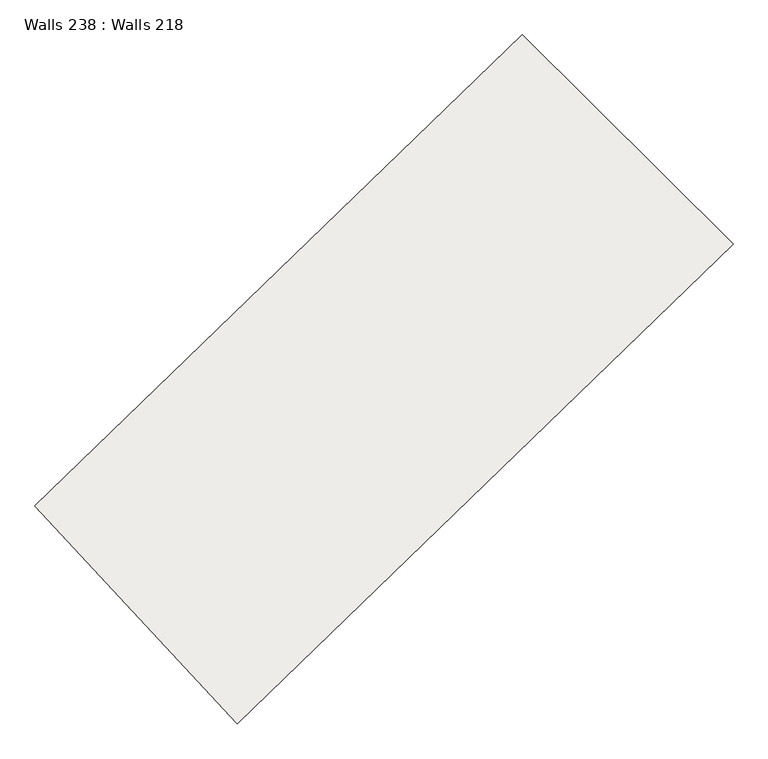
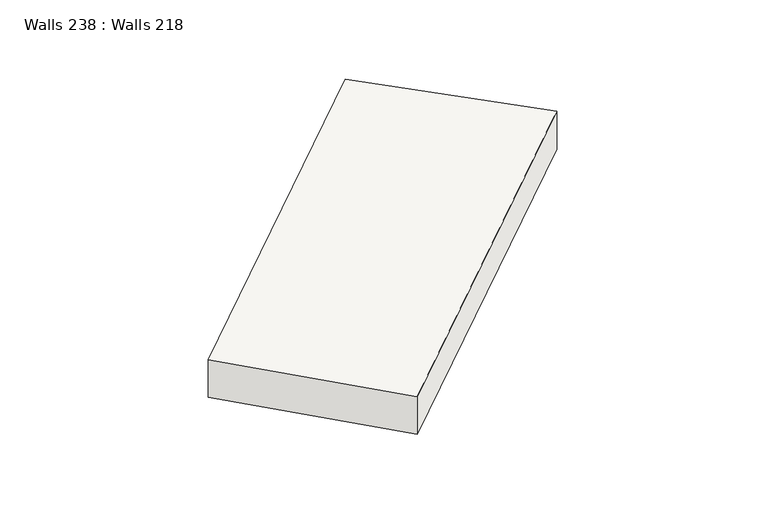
"""IFC4 building model written with IfcOpenShell, lengths in millimetres: slab geometry, Walls 238 : Walls 218."""

from ifc_helpers import new_model, si_unit, frame, origin, place, context, project, spatial, source, transform, mapped, element, save
from ifc_brep_helpers import plane_surface, spline_curve, spline_surface, advanced_brep


def walls_238_walls_218_c98b7835(model_context):
    return source(origin(), model_context, "Body", "AdvancedBrep", [
        advanced_brep(
        [(370233.5239047, 240617.591722, 644465.0), (372820.2026553, 237833.9322729, 644465.0), (372820.2026553, 237833.9322729, 645265.0), (370233.5239047, 240617.591722, 645265.0), (376461.7417409, 246644.7135533, 644577.0), (376461.7417409, 246644.7135533, 645377.0), (379159.0620187, 243968.0620408, 645377.0), (379159.0620187, 243968.0620408, 644577.0)],
        [
            (0, 1),
            (1, 2),
            (2, 3),
            (3, 0),
            (4, 5),
            (5, 6),
            (6, 7),
            (7, 4),
            (5, 3, spline_curve(3, [(376461.7417409, 246644.7135533, 645377.0), (374426.645210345, 244593.897896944, 645339.666667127), (372350.004784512, 242584.307804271, 645302.333332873), (370233.5239047, 240617.591722, 645265.0)], [4, 4], [0.0, 28.691590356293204])),
            (2, 6, spline_curve(3, [(372820.2026553, 237833.9322729, 645265.0), (374974.281249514, 239835.565590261, 645302.333332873), (377087.812276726, 241880.834745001, 645339.666667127), (379159.0620187, 243968.0620408, 645377.0)], [4, 4], [0.0, 28.691590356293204])),
            (4, 0, spline_curve(3, [(376461.7417409, 246644.7135533, 644577.0), (374426.64521009, 244593.897896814, 644539.666666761), (372350.004784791, 242584.30780441, 644502.333333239), (370233.5239047, 240617.591722, 644465.0)], [4, 4], [0.0, 28.43909818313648])),
            (7, 1, spline_curve(3, [(379159.0620187, 243968.0620408, 644577.0), (377087.812276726, 241880.834745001, 644539.666667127), (374974.281249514, 239835.565590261, 644502.333332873), (372820.2026553, 237833.9322729, 644465.0)], [4, 4], [0.0, 28.691590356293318])),
        ],
        [
            plane_surface(frame((371526.86328, 239225.7619975, 644865.0), z_axis=(-0.7325504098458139, -0.6807127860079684, 0.0), x_axis=(-0.6807127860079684, 0.7325504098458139, 0.0))),
            plane_surface(frame((377810.4018798, 245306.3877971, 644977.0), z_axis=(0.704381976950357, 0.7098211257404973, 0.0), x_axis=(0.7098211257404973, -0.704381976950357, 0.0))),
            spline_surface(3, 3, [[(379159.0620187, 243968.0620408, 645377.0), (377087.81227701, 241880.834745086, 645339.666666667), (374974.281249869, 239835.565590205, 645302.333333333), (372820.2026553, 237833.9322729, 645265.0)], [(378259.955259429, 244860.279211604, 645377.0), (376200.756588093, 242785.189129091, 645339.666666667), (374099.522428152, 240751.812994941, 645302.333333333), (371957.976405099, 238761.818755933, 645265.0)], [(377360.848500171, 245752.496382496, 645377.0), (375313.700899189, 243689.543513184, 645339.666666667), (373224.763606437, 241668.060399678, 645302.333333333), (371095.750154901, 239689.705238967, 645265.0)], [(376461.7417409, 246644.7135533, 645377.0), (374426.645210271, 244593.897897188, 645339.666666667), (372350.004784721, 242584.307804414, 645302.333333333), (370233.5239047, 240617.591722, 645265.0)]], [4, 4], [4, 4], [0.0, 12.467119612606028], [0.0, 28.691590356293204]),
            spline_surface(3, 3, [[(376461.7417409, 246644.7135533, 645377.0), (374426.645210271, 244593.897897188, 645339.666666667), (372350.004784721, 242584.307804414, 645302.333333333), (370233.5239047, 240617.591722, 645265.0)], [(376461.7417409, 246644.7135533, 645110.333333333), (374426.645210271, 244593.897897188, 645073.0), (372350.004784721, 242584.307804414, 645035.666666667), (370233.5239047, 240617.591722, 644998.333333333)], [(376461.7417409, 246644.7135533, 644843.666666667), (374426.645210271, 244593.897897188, 644806.333333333), (372350.004784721, 242584.307804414, 644769.0), (370233.5239047, 240617.591722, 644731.666666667)], [(376461.7417409, 246644.7135533, 644577.0), (374426.645210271, 244593.897897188, 644539.666666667), (372350.004784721, 242584.307804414, 644502.333333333), (370233.5239047, 240617.591722, 644465.0)]], [4, 4], [4, 4], [0.0, 2.6246719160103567], [0.0, 28.43909818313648]),
            spline_surface(3, 3, [[(376461.7417409, 246644.7135533, 644577.0), (374426.645210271, 244593.897897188, 644539.666666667), (372350.004784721, 242584.307804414, 644502.333333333), (370233.5239047, 240617.591722, 644465.0)], [(377360.848500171, 245752.496382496, 644577.0), (375313.700899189, 243689.543513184, 644539.666666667), (373224.763606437, 241668.060399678, 644502.333333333), (371095.750154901, 239689.705238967, 644465.0)], [(378259.955259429, 244860.279211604, 644577.0), (376200.756588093, 242785.189129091, 644539.666666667), (374099.522428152, 240751.812994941, 644502.333333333), (371957.976405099, 238761.818755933, 644465.0)], [(379159.0620187, 243968.0620408, 644577.0), (377087.81227701, 241880.834745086, 644539.666666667), (374974.281249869, 239835.565590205, 644502.333333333), (372820.2026553, 237833.9322729, 644465.0)]], [4, 4], [4, 4], [0.0, 12.467119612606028], [0.0, 28.691590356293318]),
            spline_surface(3, 3, [[(379159.0620187, 243968.0620408, 644577.0), (377087.81227701, 241880.834745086, 644539.666666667), (374974.281249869, 239835.565590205, 644502.333333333), (372820.2026553, 237833.9322729, 644465.0)], [(379159.0620187, 243968.0620408, 644843.666666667), (377087.81227701, 241880.834745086, 644806.333333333), (374974.281249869, 239835.565590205, 644769.0), (372820.2026553, 237833.9322729, 644731.666666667)], [(379159.0620187, 243968.0620408, 645110.333333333), (377087.81227701, 241880.834745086, 645073.0), (374974.281249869, 239835.565590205, 645035.666666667), (372820.2026553, 237833.9322729, 644998.333333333)], [(379159.0620187, 243968.0620408, 645377.0), (377087.81227701, 241880.834745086, 645339.666666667), (374974.281249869, 239835.565590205, 645302.333333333), (372820.2026553, 237833.9322729, 645265.0)]], [4, 4], [4, 4], [0.0, 2.6246719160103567], [0.0, 28.944082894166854]),
        ],
        [
            (0, [[1, 2, 3, 4]]),
            (1, [[5, 6, 7, 8]]),
            (2, [[-6, 9, -3, 10]]),
            (3, [[-5, 11, -4, -9]]),
            (4, [[-8, 12, -1, -11]]),
            (5, [[-7, -10, -2, -12]]),
        ],
    ),
    ])


if __name__ == "__main__":
    model = new_model("IFC4")
    model_context = context("Model", 3, world=origin())
    ifc_project = project(units=[si_unit("LENGTHUNIT", "METRE", prefix="MILLI")], contexts=[model_context])
    site = spatial("IfcSite", under=ifc_project)
    building = spatial("IfcBuilding", under=site)
    placement = place(None, origin())
    walls_238_walls_218_shape = walls_238_walls_218_c98b7835(model_context)
    element("IfcSlab", 1, ObjectType="Walls 238 : Walls 218", at=placement, inside=building, context=model_context, shape_type="MappedRepresentation", body=[
        mapped(walls_238_walls_218_shape, transform((0.0, 0.0, 0.0), x_axis=(1.0, 0.0, 0.0), y_axis=(0.0, 1.0, 0.0), z_axis=(0.0, 0.0, 1.0))),
    ])
    save(model, "model.ifc")
